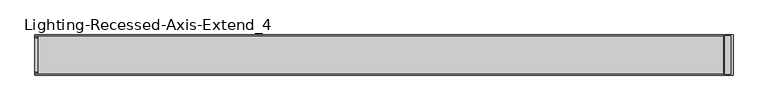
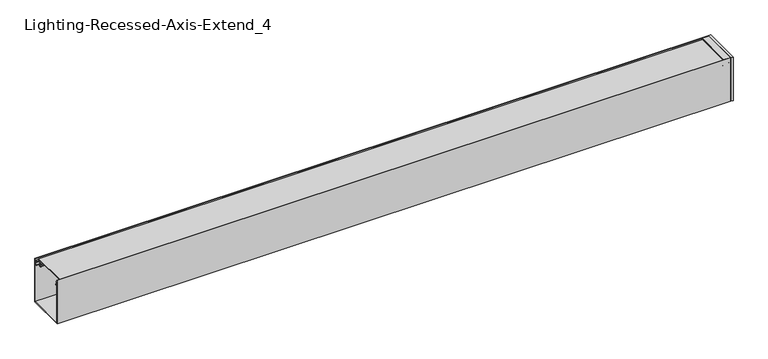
"""IFC4 building model written with IfcOpenShell, lengths in millimetres: light fixture geometry, Lighting-Recessed-Axis-Extend_4 : EX4R-900-80-35-SO-4."""

from ifc_helpers import new_model, si_unit, point, frame, frame_2d, origin, place, context, project, spatial, polyline, circle_curve, trimmed, segment, composite_curve, outline, extrude, source, transform, mapped, element, save


def lighting_recessed_axis_extend_4_4ed69525(model_context):
    return source(origin(), model_context, "Body", "SweptSolid", [
        extrude(outline(polyline([(-1.1017139, 900.4162277), (-2.57175, 900.4162277), (-2.57175, 901.2099777), (-1.778, 901.2099777), (-1.778, 908.0616277), (-4.5842019, 908.0616277), (-4.5842019, 918.7296277), (0.0, 918.7296277), (0.0, 901.3407714), (-1.1017139, 900.4162277)])), frame((0.0, -50.75301, 0.0), z_axis=(0.0, 1.0, 0.0), x_axis=(0.0, 0.0, 1.0)), (0.0, 0.0, 1.0), 101.50602),
        extrude(outline(polyline([(918.7296277, -52.78501), (918.7296277, 52.78501), (925.0796277, 52.78501), (925.0796277, -52.78501), (918.7296277, -52.78501)])), frame((0.0, 0.0, -124.7775), z_axis=(0.0, 0.0, 1.0), x_axis=(1.0, 0.0, 0.0)), (0.0, 0.0, 1.0), 124.7775),
        extrude(outline(composite_curve([segment(polyline([(-44.9537362, -4.8895009), (-45.2924281, -11.3521263)]), True, "CONTINUOUS"), segment(trimmed(circle_curve(frame_2d((-48.03521, -14.351)), 4.064), [point((-45.2924281, -11.3521263))], [point((-46.1628914, -17.9580097))], False, "CARTESIAN"), True, "CONTINUOUS"), segment(trimmed(circle_curve(frame_2d((-42.930354, -17.1691543)), 3.3274001), [point((-46.1628914, -17.9580097))], [point((-45.3476056, -19.4557425))], True, "CARTESIAN"), True, "CONTINUOUS"), segment(trimmed(circle_curve(frame_2d((-37.9113277, -12.4214292)), 10.2362001), [point((-45.3476056, -19.4557425))], [point((-43.9929166, -20.6551445))], True, "CARTESIAN"), True, "CONTINUOUS"), segment(trimmed(circle_curve(frame_2d((-44.4833673, -21.3191538)), 0.8255), [point((-43.9929166, -20.6551445))], [point((-44.973818, -21.9831631))], False, "CARTESIAN"), True, "CONTINUOUS"), segment(trimmed(circle_curve(frame_2d((-37.9113269, -12.4214283)), 11.8872013), [point((-44.973818, -21.9831631))], [point((-46.5470052, -20.5903092))], False, "CARTESIAN"), True, "CONTINUOUS"), segment(trimmed(circle_curve(frame_2d((-42.930354, -17.1691543)), 4.9784001), [point((-46.5470052, -20.5903092))], [point((-47.8918907, -16.75974))], False, "CARTESIAN"), True, "CONTINUOUS"), segment(trimmed(circle_curve(frame_2d((-48.03521, -14.351)), 2.413), [point((-47.8918907, -16.75974))], [point((-46.2564041, -12.7205342))], True, "CARTESIAN"), True, "CONTINUOUS"), segment(trimmed(circle_curve(frame_2d((-44.3839769, -11.0042544)), 2.54), [point((-46.2564041, -12.7205342))], [point((-46.9204959, -10.8713211))], False, "CARTESIAN"), True, "CONTINUOUS"), segment(polyline([(-46.9204959, -10.8713211), (-46.607002, -4.8895009), (-49.61001, -4.8895009), (-49.61001, -2.9845), (49.61001, -2.9845), (49.61001, -4.8895009), (46.607002, -4.8895009), (46.9204959, -10.8713211)]), True, "CONTINUOUS"), segment(trimmed(circle_curve(frame_2d((44.3839769, -11.0042544)), 2.54), [point((46.9204959, -10.8713211))], [point((46.2564041, -12.7205342))], False, "CARTESIAN"), True, "CONTINUOUS"), segment(trimmed(circle_curve(frame_2d((48.03521, -14.351)), 2.413), [point((46.2564041, -12.7205342))], [point((47.8918907, -16.75974))], True, "CARTESIAN"), True, "CONTINUOUS"), segment(trimmed(circle_curve(frame_2d((42.930354, -17.1691543)), 4.9784001), [point((47.8918907, -16.75974))], [point((46.5470052, -20.5903092))], False, "CARTESIAN"), True, "CONTINUOUS"), segment(trimmed(circle_curve(frame_2d((37.9113269, -12.4214283)), 11.8872013), [point((46.5470052, -20.5903092))], [point((44.973818, -21.9831631))], False, "CARTESIAN"), True, "CONTINUOUS"), segment(trimmed(circle_curve(frame_2d((44.4833673, -21.3191538)), 0.8255), [point((44.973818, -21.9831631))], [point((43.9929166, -20.6551445))], False, "CARTESIAN"), True, "CONTINUOUS"), segment(trimmed(circle_curve(frame_2d((37.9113277, -12.4214292)), 10.2362001), [point((43.9929166, -20.6551445))], [point((45.3476056, -19.4557425))], True, "CARTESIAN"), True, "CONTINUOUS"), segment(trimmed(circle_curve(frame_2d((42.930354, -17.1691543)), 3.3274001), [point((45.3476056, -19.4557425))], [point((46.1628914, -17.9580097))], True, "CARTESIAN"), True, "CONTINUOUS"), segment(trimmed(circle_curve(frame_2d((48.03521, -14.351)), 4.064), [point((46.1628914, -17.9580097))], [point((45.2924281, -11.3521263))], False, "CARTESIAN"), True, "CONTINUOUS"), segment(polyline([(45.2924281, -11.3521263), (44.9537362, -4.8895009), (-44.9537362, -4.8895009)]), True, "CONTINUOUS")], self_intersect=False)), frame((-903.7436277, 0.0, 0.0), z_axis=(1.0, 0.0, 0.0), x_axis=(0.0, 1.0, 0.0)), (0.0, 0.0, 1.0), 1807.4872554),
        extrude(outline(composite_curve([segment(polyline([(-50.75301, -14.9098), (-50.75301, -122.7455), (50.75301, -122.7455), (50.75301, -14.9098), (48.9135897, -14.9098)]), True, "CONTINUOUS"), segment(trimmed(circle_curve(frame_2d((47.4072397, -14.9098)), 1.5063501), [point((48.9135897, -14.9098))], [point((46.6540646, -16.2143374))], False, "CARTESIAN"), True, "CONTINUOUS"), segment(trimmed(circle_curve(frame_2d((47.8452221, -14.1511921)), 2.382315), [point((46.6540646, -16.2143374))], [point((45.4706616, -13.9591318))], False, "CARTESIAN"), True, "CONTINUOUS"), segment(polyline([(45.4706616, -13.9591318), (48.84801, -11.1252), (48.84801, -12.8778), (50.75301, -12.8778), (50.75301, -6.35), (48.84801, -6.35), (48.84801, -7.874), (47.19701, -7.7874748), (47.19701, -5.08), (50.75301, -5.08), (50.75301, 0.0), (52.78501, 0.0), (52.78501, -124.7775), (-52.78501, -124.7775), (-52.78501, 0.0), (-50.75301, 0.0), (-50.75301, -5.08), (-47.19701, -5.08), (-47.19701, -7.7874748), (-48.84801, -7.874), (-48.84801, -6.35), (-50.75301, -6.35), (-50.75301, -12.8778), (-48.84801, -12.8778), (-48.84801, -11.1252), (-45.4706616, -13.9591318)]), True, "CONTINUOUS"), segment(trimmed(circle_curve(frame_2d((-47.8452221, -14.1511921)), 2.382315), [point((-45.4706616, -13.9591318))], [point((-46.6540646, -16.2143374))], False, "CARTESIAN"), True, "CONTINUOUS"), segment(trimmed(circle_curve(frame_2d((-47.4072397, -14.9098)), 1.5063501), [point((-46.6540646, -16.2143374))], [point((-48.9135897, -14.9098))], False, "CARTESIAN"), True, "CONTINUOUS"), segment(polyline([(-48.9135897, -14.9098), (-50.75301, -14.9098)]), True, "CONTINUOUS")], self_intersect=False)), frame((-912.9003277, 0.0, 0.0), z_axis=(1.0, 0.0, 0.0), x_axis=(0.0, 1.0, 0.0)), (0.0, 0.0, 1.0), 1831.6299554),
    ])


if __name__ == "__main__":
    model = new_model("IFC4")
    model_context = context("Model", 3, world=origin())
    ifc_project = project(units=[si_unit("LENGTHUNIT", "METRE", prefix="MILLI")], contexts=[model_context])
    site = spatial("IfcSite", under=ifc_project)
    building = spatial("IfcBuilding", under=site)
    placement = place(None, origin())
    lighting_recessed_axis_extend_4_shape = lighting_recessed_axis_extend_4_4ed69525(model_context)
    element("IfcLightFixture", 1, ObjectType="Lighting-Recessed-Axis-Extend_4 : EX4R-900-80-35-SO-4", at=placement, inside=building, context=model_context, shape_type="MappedRepresentation", body=[
        mapped(lighting_recessed_axis_extend_4_shape, transform((0.0, 0.0, 0.0), x_axis=(1.0, 0.0, 0.0), y_axis=(0.0, 1.0, 0.0), z_axis=(0.0, 0.0, 1.0))),
    ])
    save(model, "model.ifc")
